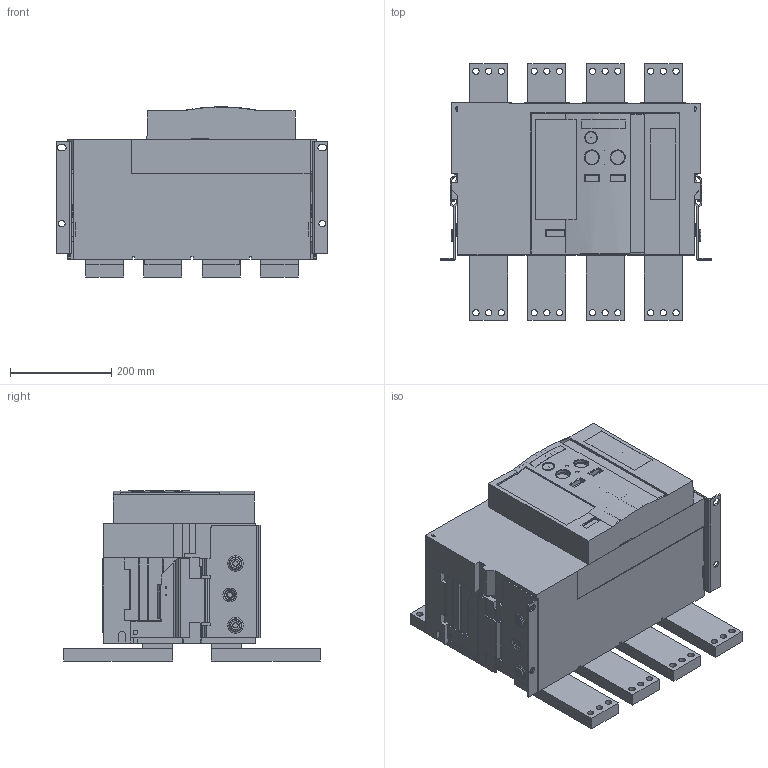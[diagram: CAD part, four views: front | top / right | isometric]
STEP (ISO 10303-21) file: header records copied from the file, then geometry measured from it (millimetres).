
FILE_DESCRIPTION (( 'STEP AP214' ), '1' );
FILE_NAME ('OptiMat A-S4-BH-2500-4P-F-X.STEP', '2023-10-02T09:57:05', ( '' ), ( '' ), 'SwSTEP 2.0', 'SolidWorks 2018', '' );
FILE_SCHEMA (( 'AUTOMOTIVE_DESIGN' ));
Length unit declared in the file: millimetre
Products named in the file (1): OptiMat A-S4-BH-2500-4P-F-X
Bounding box: 536 x 507 x 335.81 mm (x, y, z)
Volume: 40789703.2 mm3; surface area: 1560918.1 mm2
Topology: 1 solids, 59 shells, 2643 faces, 6664 edges, 4322 vertices
Faces by surface type: plane 1682, cylinder 728, cone 139, torus 59, bspline 35
Entity records: 111891 total; most frequent: CARTESIAN_POINT 20930, ORIENTED_EDGE 13304, DIRECTION 13236, EDGE_CURVE 6652, VECTOR 4488, LINE 4488, AXIS2_PLACEMENT_3D 4374, VERTEX_POINT 4322
